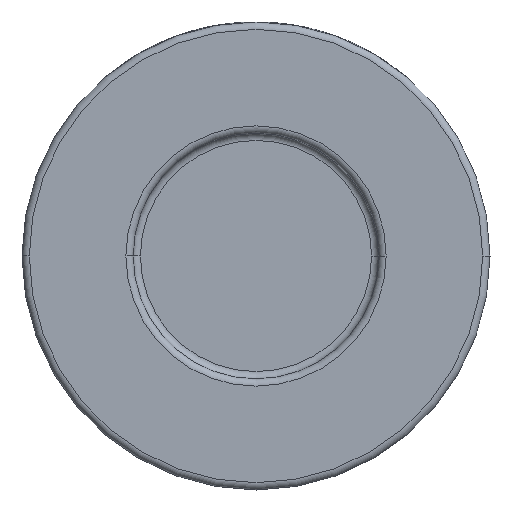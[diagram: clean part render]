
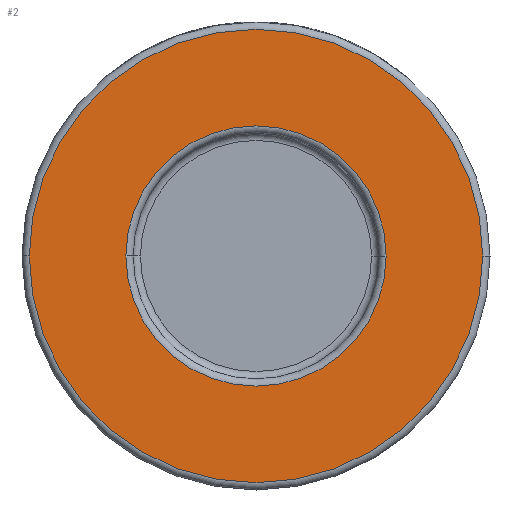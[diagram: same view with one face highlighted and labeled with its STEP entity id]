
A CAD part, front view. The second image highlights one B-rep face of the part: STEP entity #2.
In plain terms, the highlighted planar face has unit normal (0, -1, 0).
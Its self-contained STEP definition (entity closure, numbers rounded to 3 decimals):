
#2 = ADVANCED_FACE ( 'NONE', ( #1383, #3142 ), #1127, .T. ) ;
#17 = CARTESIAN_POINT ( 'NONE',  ( 17.8, -21., 0. ) ) ;
#147 = CARTESIAN_POINT ( 'NONE',  ( 0., -21., 0. ) ) ;
#244 = CARTESIAN_POINT ( 'NONE',  ( 0., -21., 0. ) ) ;
#332 = VERTEX_POINT ( 'NONE', #17 ) ;
#416 = CIRCLE ( 'NONE', #3208, 17.8 ) ;
#538 = DIRECTION ( 'NONE',  ( 0., -1., 0. ) ) ;
#605 = CARTESIAN_POINT ( 'NONE',  ( -31., -21., 0. ) ) ;
#627 = AXIS2_PLACEMENT_3D ( 'NONE', #3516, #4294, #2539 ) ;
#828 = VERTEX_POINT ( 'NONE', #1266 ) ;
#854 = EDGE_LOOP ( 'NONE', ( #2797, #925 ) ) ;
#925 = ORIENTED_EDGE ( 'NONE', *, *, #2981, .T. ) ;
#1115 = EDGE_CURVE ( 'NONE', #2920, #332, #416, .T. ) ;
#1127 = PLANE ( 'NONE',  #627 ) ;
#1145 = DIRECTION ( 'NONE',  ( 0., 1., 0. ) ) ;
#1246 = CIRCLE ( 'NONE', #2508, 17.8 ) ;
#1266 = CARTESIAN_POINT ( 'NONE',  ( 31., -21., 0. ) ) ;
#1344 = CARTESIAN_POINT ( 'NONE',  ( 0., -21., 0. ) ) ;
#1383 = FACE_BOUND ( 'NONE', #4005, .T. ) ;
#1392 = CARTESIAN_POINT ( 'NONE',  ( 0., -21., 0. ) ) ;
#1539 = DIRECTION ( 'NONE',  ( 1., 0., 0. ) ) ;
#1766 = CIRCLE ( 'NONE', #2424, 31. ) ;
#1883 = EDGE_CURVE ( 'NONE', #828, #3698, #2856, .T. ) ;
#2424 = AXIS2_PLACEMENT_3D ( 'NONE', #244, #538, #2624 ) ;
#2508 = AXIS2_PLACEMENT_3D ( 'NONE', #147, #1145, #1539 ) ;
#2539 = DIRECTION ( 'NONE',  ( 1., 0., 0. ) ) ;
#2624 = DIRECTION ( 'NONE',  ( 1., 0., 0. ) ) ;
#2682 = DIRECTION ( 'NONE',  ( 1., 0., 0. ) ) ;
#2777 = DIRECTION ( 'NONE',  ( 0., 1., 0. ) ) ;
#2797 = ORIENTED_EDGE ( 'NONE', *, *, #1883, .T. ) ;
#2856 = CIRCLE ( 'NONE', #4190, 31. ) ;
#2920 = VERTEX_POINT ( 'NONE', #3996 ) ;
#2934 = ORIENTED_EDGE ( 'NONE', *, *, #1115, .T. ) ;
#2981 = EDGE_CURVE ( 'NONE', #3698, #828, #1766, .T. ) ;
#3071 = DIRECTION ( 'NONE',  ( 0., -1., 0. ) ) ;
#3125 = DIRECTION ( 'NONE',  ( 1., 0., 0. ) ) ;
#3142 = FACE_OUTER_BOUND ( 'NONE', #854, .T. ) ;
#3208 = AXIS2_PLACEMENT_3D ( 'NONE', #1392, #2777, #3125 ) ;
#3516 = CARTESIAN_POINT ( 'NONE',  ( 32., -21., 0. ) ) ;
#3575 = ORIENTED_EDGE ( 'NONE', *, *, #3603, .T. ) ;
#3603 = EDGE_CURVE ( 'NONE', #332, #2920, #1246, .T. ) ;
#3698 = VERTEX_POINT ( 'NONE', #605 ) ;
#3996 = CARTESIAN_POINT ( 'NONE',  ( -17.8, -21., 0. ) ) ;
#4005 = EDGE_LOOP ( 'NONE', ( #3575, #2934 ) ) ;
#4190 = AXIS2_PLACEMENT_3D ( 'NONE', #1344, #3071, #2682 ) ;
#4294 = DIRECTION ( 'NONE',  ( 0., -1., 0. ) ) ;
